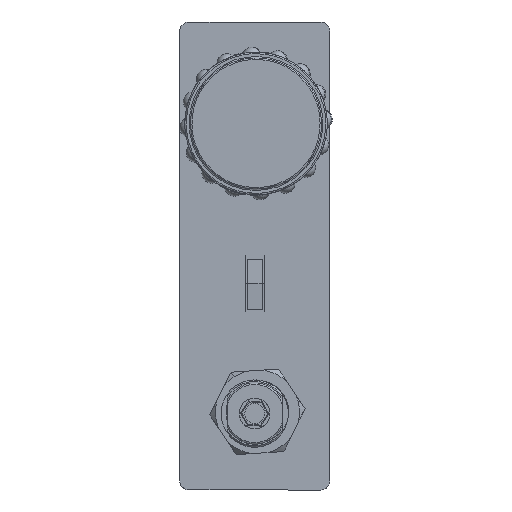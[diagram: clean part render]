
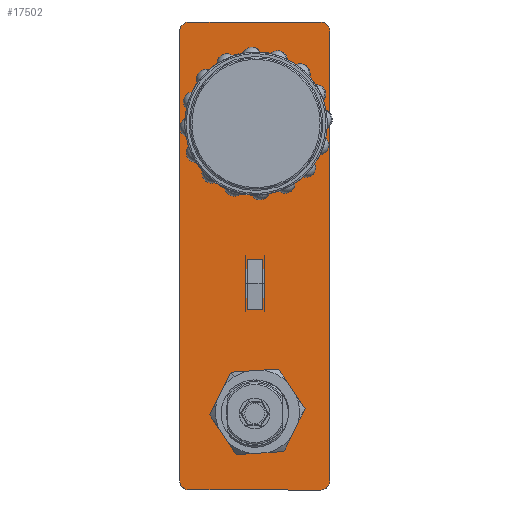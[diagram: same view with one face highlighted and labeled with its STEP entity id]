
A CAD part, front view. The second image highlights one B-rep face of the part: STEP entity #17502.
In plain terms, the highlighted planar face has unit normal (0, -1, 0).
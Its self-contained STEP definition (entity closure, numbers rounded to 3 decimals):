
#256 = AXIS2_PLACEMENT_3D ( 'NONE', #305, #304, #303 ) ;
#257 = CARTESIAN_POINT ( 'NONE',  ( 76.5, -2., 21.5 ) ) ;
#263 = CARTESIAN_POINT ( 'NONE',  ( -73.5, -2., 24.5 ) ) ;
#264 = CARTESIAN_POINT ( 'NONE',  ( -73.5, -2., -24.5 ) ) ;
#279 = CARTESIAN_POINT ( 'NONE',  ( 17.5, -2., -2.5 ) ) ;
#281 = CARTESIAN_POINT ( 'NONE',  ( 17.5, -2., -21.5 ) ) ;
#282 = LINE ( 'NONE', #281, #339 ) ;
#283 = CARTESIAN_POINT ( 'NONE',  ( 73.5, -2., -24.5 ) ) ;
#284 = DIRECTION ( 'NONE',  ( 0., 0., 1. ) ) ;
#285 = VECTOR ( 'NONE', #284, 1000. ) ;
#286 = CARTESIAN_POINT ( 'NONE',  ( 73.5, -2., 24.5 ) ) ;
#287 = CARTESIAN_POINT ( 'NONE',  ( 76.5, -2., -21.5 ) ) ;
#288 = LINE ( 'NONE', #287, #285 ) ;
#289 = DIRECTION ( 'NONE',  ( 0., 0., -1. ) ) ;
#290 = DIRECTION ( 'NONE',  ( 0., -1., 0. ) ) ;
#291 = CARTESIAN_POINT ( 'NONE',  ( 1., -2., -2.5 ) ) ;
#292 = DIRECTION ( 'NONE',  ( 0., 0., -1. ) ) ;
#293 = DIRECTION ( 'NONE',  ( 0., -1., 0. ) ) ;
#294 = CARTESIAN_POINT ( 'NONE',  ( 73.5, -2., 21.5 ) ) ;
#295 = CARTESIAN_POINT ( 'NONE',  ( 76.5, -2., -21.5 ) ) ;
#296 = CIRCLE ( 'NONE', #302, 3. ) ;
#297 = CARTESIAN_POINT ( 'NONE',  ( 73.5, -2., -21.5 ) ) ;
#298 = CARTESIAN_POINT ( 'NONE',  ( 17.5, -2., 2.5 ) ) ;
#299 = DIRECTION ( 'NONE',  ( 1., 0., 0. ) ) ;
#300 = VECTOR ( 'NONE', #299, 1000. ) ;
#301 = CARTESIAN_POINT ( 'NONE',  ( -73.5, -2., -24.5 ) ) ;
#302 = AXIS2_PLACEMENT_3D ( 'NONE', #297, #290, #289 ) ;
#303 = DIRECTION ( 'NONE',  ( 0., 0., -1. ) ) ;
#304 = DIRECTION ( 'NONE',  ( 0., -1., 0. ) ) ;
#305 = CARTESIAN_POINT ( 'NONE',  ( -73.5, -2., -21.5 ) ) ;
#306 = AXIS2_PLACEMENT_3D ( 'NONE', #294, #293, #292 ) ;
#307 = LINE ( 'NONE', #301, #300 ) ;
#308 = CIRCLE ( 'NONE', #256, 3. ) ;
#309 = CIRCLE ( 'NONE', #306, 3. ) ;
#319 = DIRECTION ( 'NONE',  ( -1., 0., 0. ) ) ;
#322 = VECTOR ( 'NONE', #319, 1000. ) ;
#323 = CARTESIAN_POINT ( 'NONE',  ( -73.5, -2., 2.5 ) ) ;
#324 = LINE ( 'NONE', #323, #322 ) ;
#327 = DIRECTION ( 'NONE',  ( 1., 0., 0. ) ) ;
#328 = VECTOR ( 'NONE', #327, 1000. ) ;
#329 = CARTESIAN_POINT ( 'NONE',  ( -73.5, -2., -2.5 ) ) ;
#330 = LINE ( 'NONE', #329, #328 ) ;
#332 = DIRECTION ( 'NONE',  ( 0., 0., -1. ) ) ;
#333 = VECTOR ( 'NONE', #332, 1000. ) ;
#334 = CARTESIAN_POINT ( 'NONE',  ( 1., -2., -21.5 ) ) ;
#335 = CARTESIAN_POINT ( 'NONE',  ( 1., -2., 2.5 ) ) ;
#336 = LINE ( 'NONE', #334, #333 ) ;
#337 = CARTESIAN_POINT ( 'NONE',  ( -76.5, -2., -21.5 ) ) ;
#338 = DIRECTION ( 'NONE',  ( 0., 0., 1. ) ) ;
#339 = VECTOR ( 'NONE', #338, 1000. ) ;
#391 = CARTESIAN_POINT ( 'NONE',  ( -76.5, -2., 21.5 ) ) ;
#409 = CARTESIAN_POINT ( 'NONE',  ( -76.5, -2., 21.5 ) ) ;
#410 = LINE ( 'NONE', #409, #432 ) ;
#411 = DIRECTION ( 'NONE',  ( 0., 0., -1. ) ) ;
#412 = DIRECTION ( 'NONE',  ( 0., -1., 0. ) ) ;
#413 = CARTESIAN_POINT ( 'NONE',  ( -73.5, -2., 21.5 ) ) ;
#415 = CARTESIAN_POINT ( 'NONE',  ( -42.3, -2., 0. ) ) ;
#417 = DIRECTION ( 'NONE',  ( -1., 0., 0. ) ) ;
#418 = VECTOR ( 'NONE', #417, 1000. ) ;
#421 = CARTESIAN_POINT ( 'NONE',  ( 0., -2., 24.5 ) ) ;
#422 = LINE ( 'NONE', #421, #418 ) ;
#423 = CIRCLE ( 'NONE', #425, 3. ) ;
#425 = AXIS2_PLACEMENT_3D ( 'NONE', #413, #412, #411 ) ;
#431 = DIRECTION ( 'NONE',  ( 0., 0., -1. ) ) ;
#432 = VECTOR ( 'NONE', #431, 1000. ) ;
#468 = DIRECTION ( 'NONE',  ( 0., 0., -1. ) ) ;
#469 = DIRECTION ( 'NONE',  ( 0., -1., 0. ) ) ;
#470 = AXIS2_PLACEMENT_3D ( 'NONE', #415, #469, #468 ) ;
#473 = CIRCLE ( 'NONE', #470, 22.5 ) ;
#17276 = VERTEX_POINT ( 'NONE', #23858 ) ;
#17319 = VERTEX_POINT ( 'NONE', #23919 ) ;
#17347 = EDGE_CURVE ( 'NONE', #17319, #17276, #24013, .T. ) ;
#17373 = VERTEX_POINT ( 'NONE', #24082 ) ;
#17375 = EDGE_CURVE ( 'NONE', #17383, #17373, #24130, .T. ) ;
#17383 = VERTEX_POINT ( 'NONE', #24118 ) ;
#17419 = EDGE_CURVE ( 'NONE', #17373, #17383, #24210, .T. ) ;
#17502 = ADVANCED_FACE ( 'NONE', ( #24376, #24362, #24375, #24325 ), #24378, .T. ) ;
#17634 = ORIENTED_EDGE ( 'NONE', *, *, #17801, .F. ) ;
#17674 = EDGE_LOOP ( 'NONE', ( #17634, #17809, #17808, #17806 ) ) ;
#17786 = ORIENTED_EDGE ( 'NONE', *, *, #17870, .T. ) ;
#17787 = VERTEX_POINT ( 'NONE', #264 ) ;
#17788 = VERTEX_POINT ( 'NONE', #257 ) ;
#17789 = EDGE_LOOP ( 'NONE', ( #17817, #17791, #17797, #17815, #17862, #17796, #17869, #17786 ) ) ;
#17790 = EDGE_CURVE ( 'NONE', #17813, #17787, #308, .T. ) ;
#17791 = ORIENTED_EDGE ( 'NONE', *, *, #17792, .T. ) ;
#17792 = EDGE_CURVE ( 'NONE', #17787, #17803, #307, .T. ) ;
#17793 = VERTEX_POINT ( 'NONE', #263 ) ;
#17794 = EDGE_CURVE ( 'NONE', #17788, #17799, #309, .T. ) ;
#17795 = EDGE_CURVE ( 'NONE', #17803, #17800, #296, .T. ) ;
#17796 = ORIENTED_EDGE ( 'NONE', *, *, #17863, .T. ) ;
#17797 = ORIENTED_EDGE ( 'NONE', *, *, #17795, .T. ) ;
#17798 = EDGE_CURVE ( 'NONE', #17800, #17788, #288, .T. ) ;
#17799 = VERTEX_POINT ( 'NONE', #286 ) ;
#17800 = VERTEX_POINT ( 'NONE', #295 ) ;
#17801 = EDGE_CURVE ( 'NONE', #17804, #17807, #282, .T. ) ;
#17802 = VERTEX_POINT ( 'NONE', #291 ) ;
#17803 = VERTEX_POINT ( 'NONE', #283 ) ;
#17804 = VERTEX_POINT ( 'NONE', #279 ) ;
#17806 = ORIENTED_EDGE ( 'NONE', *, *, #17816, .F. ) ;
#17807 = VERTEX_POINT ( 'NONE', #298 ) ;
#17808 = ORIENTED_EDGE ( 'NONE', *, *, #17810, .F. ) ;
#17809 = ORIENTED_EDGE ( 'NONE', *, *, #17811, .F. ) ;
#17810 = EDGE_CURVE ( 'NONE', #17812, #17802, #336, .T. ) ;
#17811 = EDGE_CURVE ( 'NONE', #17802, #17804, #330, .T. ) ;
#17812 = VERTEX_POINT ( 'NONE', #335 ) ;
#17813 = VERTEX_POINT ( 'NONE', #337 ) ;
#17815 = ORIENTED_EDGE ( 'NONE', *, *, #17798, .T. ) ;
#17816 = EDGE_CURVE ( 'NONE', #17807, #17812, #324, .T. ) ;
#17817 = ORIENTED_EDGE ( 'NONE', *, *, #17790, .T. ) ;
#17818 = ORIENTED_EDGE ( 'NONE', *, *, #17375, .F. ) ;
#17819 = ORIENTED_EDGE ( 'NONE', *, *, #17419, .F. ) ;
#17820 = EDGE_LOOP ( 'NONE', ( #17819, #17818 ) ) ;
#17848 = ORIENTED_EDGE ( 'NONE', *, *, #17347, .F. ) ;
#17861 = EDGE_LOOP ( 'NONE', ( #17868, #17848 ) ) ;
#17862 = ORIENTED_EDGE ( 'NONE', *, *, #17794, .T. ) ;
#17863 = EDGE_CURVE ( 'NONE', #17799, #17793, #422, .T. ) ;
#17864 = VERTEX_POINT ( 'NONE', #391 ) ;
#17866 = EDGE_CURVE ( 'NONE', #17793, #17864, #423, .T. ) ;
#17868 = ORIENTED_EDGE ( 'NONE', *, *, #17871, .F. ) ;
#17869 = ORIENTED_EDGE ( 'NONE', *, *, #17866, .T. ) ;
#17870 = EDGE_CURVE ( 'NONE', #17864, #17813, #410, .T. ) ;
#17871 = EDGE_CURVE ( 'NONE', #17276, #17319, #473, .T. ) ;
#22955 = DIRECTION ( 'NONE',  ( 0., 0., -1. ) ) ;
#23858 = CARTESIAN_POINT ( 'NONE',  ( -42.3, -2., 22.5 ) ) ;
#23919 = CARTESIAN_POINT ( 'NONE',  ( -42.3, -2., -22.5 ) ) ;
#24000 = AXIS2_PLACEMENT_3D ( 'NONE', #24009, #24065, #24064 ) ;
#24009 = CARTESIAN_POINT ( 'NONE',  ( -42.3, -2., 0. ) ) ;
#24013 = CIRCLE ( 'NONE', #24000, 22.5 ) ;
#24064 = DIRECTION ( 'NONE',  ( 0., 0., -1. ) ) ;
#24065 = DIRECTION ( 'NONE',  ( 0., -1., 0. ) ) ;
#24082 = CARTESIAN_POINT ( 'NONE',  ( 51.5, -2., 11. ) ) ;
#24118 = CARTESIAN_POINT ( 'NONE',  ( 51.5, -2., -11. ) ) ;
#24126 = DIRECTION ( 'NONE',  ( 0., 0., -1. ) ) ;
#24127 = DIRECTION ( 'NONE',  ( 0., -1., 0. ) ) ;
#24128 = CARTESIAN_POINT ( 'NONE',  ( 51.5, -2., 0. ) ) ;
#24129 = AXIS2_PLACEMENT_3D ( 'NONE', #24128, #24127, #24126 ) ;
#24130 = CIRCLE ( 'NONE', #24129, 11. ) ;
#24180 = DIRECTION ( 'NONE',  ( 0., -1., 0. ) ) ;
#24181 = CARTESIAN_POINT ( 'NONE',  ( 51.5, -2., 0. ) ) ;
#24182 = AXIS2_PLACEMENT_3D ( 'NONE', #24181, #24180, #22955 ) ;
#24210 = CIRCLE ( 'NONE', #24182, 11. ) ;
#24325 = FACE_BOUND ( 'NONE', #17861, .T. ) ;
#24362 = FACE_BOUND ( 'NONE', #17820, .T. ) ;
#24375 = FACE_OUTER_BOUND ( 'NONE', #17789, .T. ) ;
#24376 = FACE_BOUND ( 'NONE', #17674, .T. ) ;
#24378 = PLANE ( 'NONE',  #24408 ) ;
#24405 = DIRECTION ( 'NONE',  ( 0., 0., -1. ) ) ;
#24406 = DIRECTION ( 'NONE',  ( 0., -1., 0. ) ) ;
#24407 = CARTESIAN_POINT ( 'NONE',  ( -73.5, -2., -21.5 ) ) ;
#24408 = AXIS2_PLACEMENT_3D ( 'NONE', #24407, #24406, #24405 ) ;
